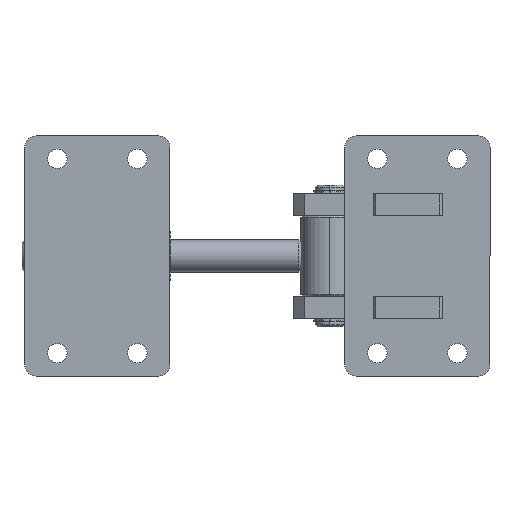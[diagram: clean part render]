
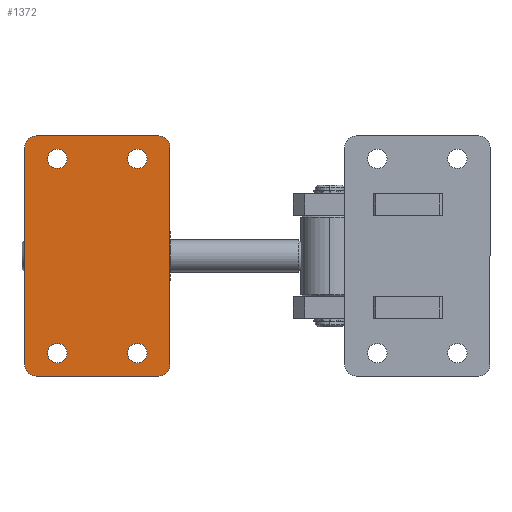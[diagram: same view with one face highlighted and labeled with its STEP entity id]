
A CAD part, front view. The second image highlights one B-rep face of the part: STEP entity #1372.
In plain terms, the highlighted planar face has unit normal (0, -1, 0).
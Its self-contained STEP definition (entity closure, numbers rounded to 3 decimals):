
#331 = EDGE_LOOP ( 'NONE', ( #1191, #5636 ) ) ;
#336 = EDGE_LOOP ( 'NONE', ( #4821, #4841 ) ) ;
#341 = EDGE_LOOP ( 'NONE', ( #1427, #5615 ) ) ;
#347 = EDGE_LOOP ( 'NONE', ( #4823, #1167, #1450, #4989, #1119, #4842, #5631, #1198 ) ) ;
#356 = LINE ( 'NONE', #357, #4710 ) ;
#357 = CARTESIAN_POINT ( 'NONE',  ( -52.5, -9.525, -31.75 ) ) ;
#358 = DIRECTION ( 'NONE',  ( -1., 0., 0. ) ) ;
#371 = LINE ( 'NONE', #372, #4673 ) ;
#372 = CARTESIAN_POINT ( 'NONE',  ( -52.5, -9.525, -31.75 ) ) ;
#373 = DIRECTION ( 'NONE',  ( 0., 0., 1. ) ) ;
#385 = CARTESIAN_POINT ( 'NONE',  ( -42.5, -9.525, -17.5 ) ) ;
#386 = DIRECTION ( 'NONE',  ( 0., 1., 0. ) ) ;
#387 = DIRECTION ( 'NONE',  ( 0., 0., 1. ) ) ;
#398 = CARTESIAN_POINT ( 'NONE',  ( 42.5, -9.525, -17.5 ) ) ;
#399 = DIRECTION ( 'NONE',  ( 0., 1., 0. ) ) ;
#400 = DIRECTION ( 'NONE',  ( 0., 0., 1. ) ) ;
#880 = EDGE_CURVE ( 'NONE', #4042, #4039, #356, .T. ) ;
#886 = EDGE_CURVE ( 'NONE', #4868, #3364, #371, .T. ) ;
#890 = EDGE_CURVE ( 'NONE', #3372, #4003, #4669, .T. ) ;
#894 = EDGE_CURVE ( 'NONE', #4036, #4029, #4696, .T. ) ;
#1113 = VERTEX_POINT ( 'NONE', #2018 ) ;
#1119 = ORIENTED_EDGE ( 'NONE', *, *, #5565, .F. ) ;
#1167 = ORIENTED_EDGE ( 'NONE', *, *, #5557, .T. ) ;
#1168 = ORIENTED_EDGE ( 'NONE', *, *, #5558, .T. ) ;
#1191 = ORIENTED_EDGE ( 'NONE', *, *, #5559, .T. ) ;
#1198 = ORIENTED_EDGE ( 'NONE', *, *, #5552, .T. ) ;
#1281 = EDGE_CURVE ( 'NONE', #3365, #4022, #3557, .T. ) ;
#1284 = EDGE_CURVE ( 'NONE', #4045, #4878, #3546, .T. ) ;
#1372 = ADVANCED_FACE ( 'NONE', ( #5248, #5244, #5251, #5253, #5247 ), #5239, .F. ) ;
#1427 = ORIENTED_EDGE ( 'NONE', *, *, #5560, .T. ) ;
#1450 = ORIENTED_EDGE ( 'NONE', *, *, #5569, .F. ) ;
#2018 = CARTESIAN_POINT ( 'NONE',  ( 47.5, -9.525, 31.75 ) ) ;
#2047 = CARTESIAN_POINT ( 'NONE',  ( 42.5, -9.525, 17.5 ) ) ;
#2048 = DIRECTION ( 'NONE',  ( 0., 1., 0. ) ) ;
#2049 = DIRECTION ( 'NONE',  ( 0., 0., 1. ) ) ;
#2059 = CARTESIAN_POINT ( 'NONE',  ( -42.5, -9.525, 17.5 ) ) ;
#2060 = DIRECTION ( 'NONE',  ( 0., 1., 0. ) ) ;
#2061 = DIRECTION ( 'NONE',  ( 0., 0., 1. ) ) ;
#2425 = VECTOR ( 'NONE', #2649, 1000. ) ;
#2429 = VECTOR ( 'NONE', #2637, 1000. ) ;
#2432 = AXIS2_PLACEMENT_3D ( 'NONE', #2625, #2626, #2627 ) ;
#2434 = AXIS2_PLACEMENT_3D ( 'NONE', #2620, #2621, #2622 ) ;
#2435 = CIRCLE ( 'NONE', #2432, 4.25 ) ;
#2436 = AXIS2_PLACEMENT_3D ( 'NONE', #2615, #2616, #2617 ) ;
#2437 = CIRCLE ( 'NONE', #2434, 4.25 ) ;
#2438 = AXIS2_PLACEMENT_3D ( 'NONE', #2612, #2613, #2614 ) ;
#2439 = CIRCLE ( 'NONE', #2436, 4.25 ) ;
#2440 = AXIS2_PLACEMENT_3D ( 'NONE', #2609, #2610, #2611 ) ;
#2441 = CIRCLE ( 'NONE', #2438, 4.25 ) ;
#2442 = AXIS2_PLACEMENT_3D ( 'NONE', #2606, #2607, #2608 ) ;
#2443 = CIRCLE ( 'NONE', #2440, 5. ) ;
#2444 = AXIS2_PLACEMENT_3D ( 'NONE', #2603, #2604, #2605 ) ;
#2445 = CIRCLE ( 'NONE', #2442, 5. ) ;
#2446 = AXIS2_PLACEMENT_3D ( 'NONE', #2600, #2601, #2602 ) ;
#2449 = CIRCLE ( 'NONE', #2446, 5. ) ;
#2464 = CIRCLE ( 'NONE', #2444, 5. ) ;
#2600 = CARTESIAN_POINT ( 'NONE',  ( -47.5, -9.525, -26.75 ) ) ;
#2601 = DIRECTION ( 'NONE',  ( 0., -1., 0. ) ) ;
#2602 = DIRECTION ( 'NONE',  ( 0., 0., 1. ) ) ;
#2603 = CARTESIAN_POINT ( 'NONE',  ( -47.5, -9.525, 26.75 ) ) ;
#2604 = DIRECTION ( 'NONE',  ( 0., -1., 0. ) ) ;
#2605 = DIRECTION ( 'NONE',  ( 0., 0., 1. ) ) ;
#2606 = CARTESIAN_POINT ( 'NONE',  ( 47.5, -9.525, 26.75 ) ) ;
#2607 = DIRECTION ( 'NONE',  ( 0., -1., 0. ) ) ;
#2608 = DIRECTION ( 'NONE',  ( 0., 0., 1. ) ) ;
#2609 = CARTESIAN_POINT ( 'NONE',  ( 47.5, -9.525, -26.75 ) ) ;
#2610 = DIRECTION ( 'NONE',  ( 0., -1., 0. ) ) ;
#2611 = DIRECTION ( 'NONE',  ( 0., 0., 1. ) ) ;
#2612 = CARTESIAN_POINT ( 'NONE',  ( -42.5, -9.525, -17.5 ) ) ;
#2613 = DIRECTION ( 'NONE',  ( 0., 1., 0. ) ) ;
#2614 = DIRECTION ( 'NONE',  ( 0., 0., 1. ) ) ;
#2615 = CARTESIAN_POINT ( 'NONE',  ( 42.5, -9.525, -17.5 ) ) ;
#2616 = DIRECTION ( 'NONE',  ( 0., 1., 0. ) ) ;
#2617 = DIRECTION ( 'NONE',  ( 0., 0., 1. ) ) ;
#2620 = CARTESIAN_POINT ( 'NONE',  ( 42.5, -9.525, 17.5 ) ) ;
#2621 = DIRECTION ( 'NONE',  ( 0., 1., 0. ) ) ;
#2622 = DIRECTION ( 'NONE',  ( 0., 0., 1. ) ) ;
#2625 = CARTESIAN_POINT ( 'NONE',  ( -42.5, -9.525, 17.5 ) ) ;
#2626 = DIRECTION ( 'NONE',  ( 0., 1., 0. ) ) ;
#2627 = DIRECTION ( 'NONE',  ( 0., 0., 1. ) ) ;
#2635 = LINE ( 'NONE', #2636, #2429 ) ;
#2636 = CARTESIAN_POINT ( 'NONE',  ( -52.5, -9.525, 31.75 ) ) ;
#2637 = DIRECTION ( 'NONE',  ( 1., 0., 0. ) ) ;
#2647 = LINE ( 'NONE', #2648, #2425 ) ;
#2648 = CARTESIAN_POINT ( 'NONE',  ( 52.5, -9.525, -31.75 ) ) ;
#2649 = DIRECTION ( 'NONE',  ( 0., 0., -1. ) ) ;
#3364 = VERTEX_POINT ( 'NONE', #3833 ) ;
#3365 = VERTEX_POINT ( 'NONE', #3840 ) ;
#3372 = VERTEX_POINT ( 'NONE', #3846 ) ;
#3428 = AXIS2_PLACEMENT_3D ( 'NONE', #5250, #5254, #5255 ) ;
#3542 = AXIS2_PLACEMENT_3D ( 'NONE', #2059, #2060, #2061 ) ;
#3546 = CIRCLE ( 'NONE', #3542, 4.25 ) ;
#3547 = AXIS2_PLACEMENT_3D ( 'NONE', #2047, #2048, #2049 ) ;
#3557 = CIRCLE ( 'NONE', #3547, 4.25 ) ;
#3833 = CARTESIAN_POINT ( 'NONE',  ( -52.5, -9.525, 26.75 ) ) ;
#3840 = CARTESIAN_POINT ( 'NONE',  ( 42.5, -9.525, 13.25 ) ) ;
#3846 = CARTESIAN_POINT ( 'NONE',  ( -42.5, -9.525, -21.75 ) ) ;
#3860 = CARTESIAN_POINT ( 'NONE',  ( -42.5, -9.525, -13.25 ) ) ;
#3873 = CARTESIAN_POINT ( 'NONE',  ( 52.5, -9.525, 26.75 ) ) ;
#3878 = CARTESIAN_POINT ( 'NONE',  ( 42.5, -9.525, 21.75 ) ) ;
#3880 = CARTESIAN_POINT ( 'NONE',  ( 52.5, -9.525, -26.75 ) ) ;
#3885 = CARTESIAN_POINT ( 'NONE',  ( 42.5, -9.525, -13.25 ) ) ;
#3892 = CARTESIAN_POINT ( 'NONE',  ( 42.5, -9.525, -21.75 ) ) ;
#3895 = CARTESIAN_POINT ( 'NONE',  ( -47.5, -9.525, -31.75 ) ) ;
#3896 = CARTESIAN_POINT ( 'NONE',  ( -47.5, -9.525, 31.75 ) ) ;
#3898 = CARTESIAN_POINT ( 'NONE',  ( 47.5, -9.525, -31.75 ) ) ;
#3901 = CARTESIAN_POINT ( 'NONE',  ( -42.5, -9.525, 13.25 ) ) ;
#3908 = CARTESIAN_POINT ( 'NONE',  ( -52.5, -9.525, -26.75 ) ) ;
#3916 = CARTESIAN_POINT ( 'NONE',  ( -42.5, -9.525, 21.75 ) ) ;
#4003 = VERTEX_POINT ( 'NONE', #3860 ) ;
#4017 = VERTEX_POINT ( 'NONE', #3873 ) ;
#4022 = VERTEX_POINT ( 'NONE', #3878 ) ;
#4024 = VERTEX_POINT ( 'NONE', #3880 ) ;
#4029 = VERTEX_POINT ( 'NONE', #3885 ) ;
#4036 = VERTEX_POINT ( 'NONE', #3892 ) ;
#4039 = VERTEX_POINT ( 'NONE', #3895 ) ;
#4040 = VERTEX_POINT ( 'NONE', #3896 ) ;
#4042 = VERTEX_POINT ( 'NONE', #3898 ) ;
#4045 = VERTEX_POINT ( 'NONE', #3901 ) ;
#4077 = EDGE_LOOP ( 'NONE', ( #1168, #5015 ) ) ;
#4641 = AXIS2_PLACEMENT_3D ( 'NONE', #385, #386, #387 ) ;
#4669 = CIRCLE ( 'NONE', #4641, 4.25 ) ;
#4673 = VECTOR ( 'NONE', #373, 1000. ) ;
#4695 = AXIS2_PLACEMENT_3D ( 'NONE', #398, #399, #400 ) ;
#4696 = CIRCLE ( 'NONE', #4695, 4.25 ) ;
#4710 = VECTOR ( 'NONE', #358, 1000. ) ;
#4821 = ORIENTED_EDGE ( 'NONE', *, *, #5561, .T. ) ;
#4823 = ORIENTED_EDGE ( 'NONE', *, *, #880, .F. ) ;
#4841 = ORIENTED_EDGE ( 'NONE', *, *, #1284, .T. ) ;
#4842 = ORIENTED_EDGE ( 'NONE', *, *, #5554, .T. ) ;
#4868 = VERTEX_POINT ( 'NONE', #3908 ) ;
#4878 = VERTEX_POINT ( 'NONE', #3916 ) ;
#4989 = ORIENTED_EDGE ( 'NONE', *, *, #5555, .T. ) ;
#5015 = ORIENTED_EDGE ( 'NONE', *, *, #890, .T. ) ;
#5239 = PLANE ( 'NONE',  #3428 ) ;
#5244 = FACE_BOUND ( 'NONE', #341, .T. ) ;
#5247 = FACE_OUTER_BOUND ( 'NONE', #347, .T. ) ;
#5248 = FACE_BOUND ( 'NONE', #336, .T. ) ;
#5250 = CARTESIAN_POINT ( 'NONE',  ( -52.5, -9.525, 31.75 ) ) ;
#5251 = FACE_BOUND ( 'NONE', #331, .T. ) ;
#5253 = FACE_BOUND ( 'NONE', #4077, .T. ) ;
#5254 = DIRECTION ( 'NONE',  ( 0., 1., 0. ) ) ;
#5255 = DIRECTION ( 'NONE',  ( 0., 0., 1. ) ) ;
#5552 = EDGE_CURVE ( 'NONE', #4868, #4039, #2449, .T. ) ;
#5554 = EDGE_CURVE ( 'NONE', #4040, #3364, #2464, .T. ) ;
#5555 = EDGE_CURVE ( 'NONE', #4017, #1113, #2445, .T. ) ;
#5557 = EDGE_CURVE ( 'NONE', #4042, #4024, #2443, .T. ) ;
#5558 = EDGE_CURVE ( 'NONE', #4003, #3372, #2441, .T. ) ;
#5559 = EDGE_CURVE ( 'NONE', #4029, #4036, #2439, .T. ) ;
#5560 = EDGE_CURVE ( 'NONE', #4022, #3365, #2437, .T. ) ;
#5561 = EDGE_CURVE ( 'NONE', #4878, #4045, #2435, .T. ) ;
#5565 = EDGE_CURVE ( 'NONE', #4040, #1113, #2635, .T. ) ;
#5569 = EDGE_CURVE ( 'NONE', #4017, #4024, #2647, .T. ) ;
#5615 = ORIENTED_EDGE ( 'NONE', *, *, #1281, .T. ) ;
#5631 = ORIENTED_EDGE ( 'NONE', *, *, #886, .F. ) ;
#5636 = ORIENTED_EDGE ( 'NONE', *, *, #894, .T. ) ;
